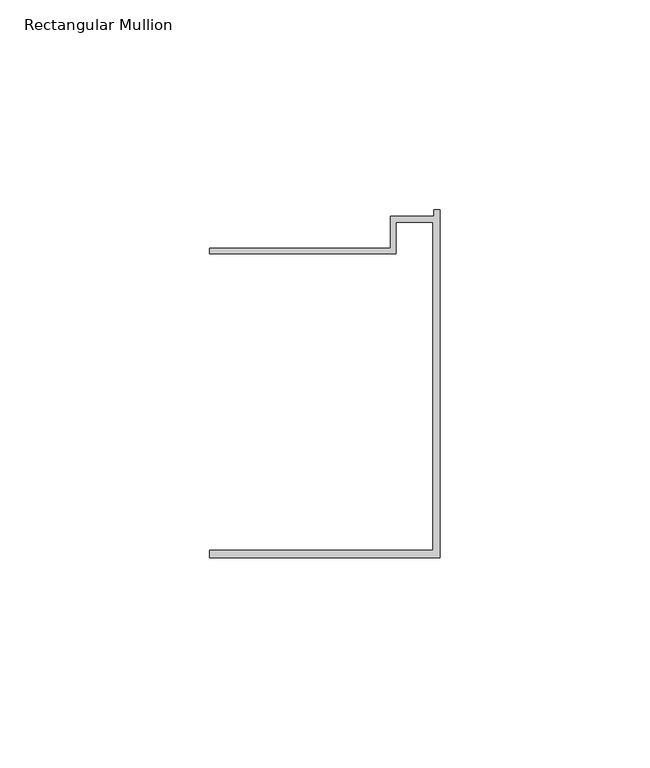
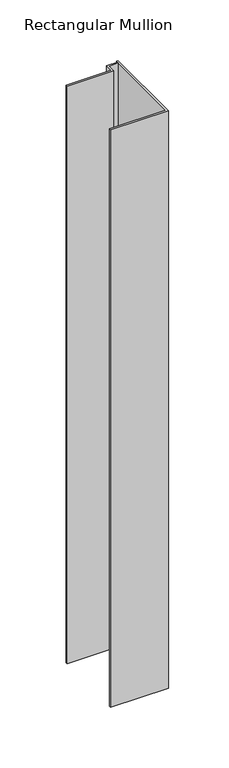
"""IFC4 building model written with IfcOpenShell, lengths in millimetres: member geometry, Rectangular Mullion : Danpal Bottom Mullion."""

from ifc_helpers import new_model, si_unit, frame, origin, place, context, project, spatial, polyline, outline, extrude, source, transform, mapped, element, save


def rectangular_mullion_ce052a9a(model_context):
    return source(origin(), model_context, "Body", "SweptSolid", [
        extrude(outline(polyline([(-54.8546474, 80.8144448), (-54.8546474, 82.2144448), (-11.7999842, 82.2144448), (-11.7999842, 89.8206003), (-1.4, 89.8206003), (-1.4, 91.3144448), (0.0, 91.3144448), (0.0, 8.4568509), (-54.8546474, 8.4568509), (-54.8546474, 10.2068341), (-1.6, 10.2068341), (-1.6, 88.4144116), (-10.3999842, 88.4144116), (-10.3999842, 80.8144448), (-54.8546474, 80.8144448)])), frame((0.0, 0.0, -581.0253323), z_axis=(0.0, 0.0, 1.0), x_axis=(1.0, 0.0, 0.0)), (0.0, 0.0, 1.0), 581.0253323),
    ])


if __name__ == "__main__":
    model = new_model("IFC4")
    model_context = context("Model", 3, world=origin())
    ifc_project = project(units=[si_unit("LENGTHUNIT", "METRE", prefix="MILLI")], contexts=[model_context])
    site = spatial("IfcSite", under=ifc_project)
    building = spatial("IfcBuilding", under=site)
    placement = place(None, origin())
    rectangular_mullion_shape = rectangular_mullion_ce052a9a(model_context)
    element("IfcMember", 1, ObjectType="Rectangular Mullion : Danpal Bottom Mullion", at=placement, inside=building, context=model_context, shape_type="MappedRepresentation", body=[
        mapped(rectangular_mullion_shape, transform((0.0, 0.0, 0.0), x_axis=(1.0, 0.0, 0.0), y_axis=(0.0, 1.0, 0.0), z_axis=(0.0, 0.0, 1.0))),
    ])
    save(model, "model.ifc")
